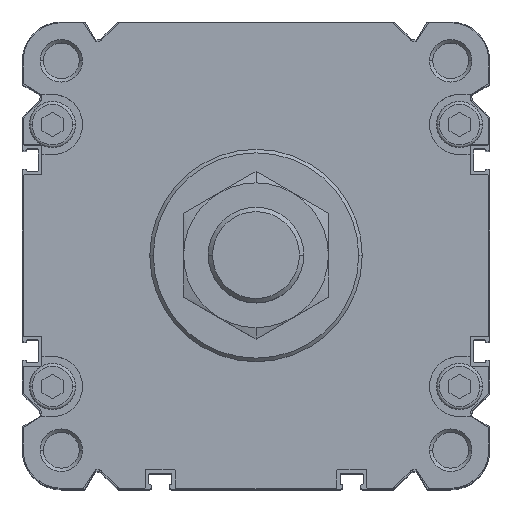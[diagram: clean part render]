
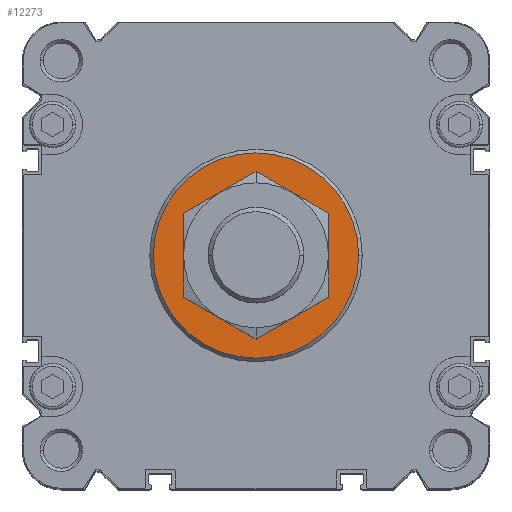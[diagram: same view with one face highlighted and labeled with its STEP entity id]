
A CAD part, top view. The second image highlights one B-rep face of the part: STEP entity #12273.
In plain terms, the highlighted planar face has unit normal (0, 0, 1).
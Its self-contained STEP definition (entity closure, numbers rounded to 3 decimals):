
#155 = DIRECTION ( 'NONE',  ( 1., 0., 0. ) ) ;
#247 = CARTESIAN_POINT ( 'NONE',  ( 16., 0., 4. ) ) ;
#760 = EDGE_CURVE ( 'NONE', #2553, #19385, #2450, .T. ) ;
#1397 = EDGE_LOOP ( 'NONE', ( #16174, #8851 ) ) ;
#2450 = CIRCLE ( 'NONE', #13965, 29. ) ;
#2553 = VERTEX_POINT ( 'NONE', #18446 ) ;
#3111 = CARTESIAN_POINT ( 'NONE',  ( 29., 0., 4. ) ) ;
#4962 = AXIS2_PLACEMENT_3D ( 'NONE', #6538, #20473, #6081 ) ;
#4968 = FACE_OUTER_BOUND ( 'NONE', #1397, .T. ) ;
#6081 = DIRECTION ( 'NONE',  ( 1., 0., 0. ) ) ;
#6281 = VERTEX_POINT ( 'NONE', #247 ) ;
#6526 = EDGE_LOOP ( 'NONE', ( #14878, #15387 ) ) ;
#6538 = CARTESIAN_POINT ( 'NONE',  ( 0., 0., 4. ) ) ;
#6615 = CIRCLE ( 'NONE', #9571, 16. ) ;
#7147 = CIRCLE ( 'NONE', #12322, 29. ) ;
#8440 = DIRECTION ( 'NONE',  ( -1., 0., 0. ) ) ;
#8676 = CARTESIAN_POINT ( 'NONE',  ( 0., -29., 4. ) ) ;
#8851 = ORIENTED_EDGE ( 'NONE', *, *, #760, .F. ) ;
#9571 = AXIS2_PLACEMENT_3D ( 'NONE', #13856, #15237, #18847 ) ;
#10301 = DIRECTION ( 'NONE',  ( 0., 0., 1. ) ) ;
#10644 = PLANE ( 'NONE',  #17134 ) ;
#11206 = CARTESIAN_POINT ( 'NONE',  ( 0., 0., 4. ) ) ;
#11620 = CIRCLE ( 'NONE', #4962, 16. ) ;
#11953 = VERTEX_POINT ( 'NONE', #14372 ) ;
#12273 = ADVANCED_FACE ( 'NONE', ( #4968, #14132 ), #10644, .T. ) ;
#12322 = AXIS2_PLACEMENT_3D ( 'NONE', #11206, #14683, #21772 ) ;
#12359 = EDGE_CURVE ( 'NONE', #19385, #2553, #7147, .T. ) ;
#13856 = CARTESIAN_POINT ( 'NONE',  ( 0., 0., 4. ) ) ;
#13965 = AXIS2_PLACEMENT_3D ( 'NONE', #17917, #17803, #155 ) ;
#14128 = EDGE_CURVE ( 'NONE', #6281, #11953, #11620, .T. ) ;
#14132 = FACE_BOUND ( 'NONE', #6526, .T. ) ;
#14372 = CARTESIAN_POINT ( 'NONE',  ( -16., 0., 4. ) ) ;
#14683 = DIRECTION ( 'NONE',  ( 0., 0., -1. ) ) ;
#14878 = ORIENTED_EDGE ( 'NONE', *, *, #14128, .T. ) ;
#15237 = DIRECTION ( 'NONE',  ( 0., 0., -1. ) ) ;
#15387 = ORIENTED_EDGE ( 'NONE', *, *, #21396, .T. ) ;
#16174 = ORIENTED_EDGE ( 'NONE', *, *, #12359, .F. ) ;
#17134 = AXIS2_PLACEMENT_3D ( 'NONE', #8676, #10301, #8440 ) ;
#17803 = DIRECTION ( 'NONE',  ( 0., 0., -1. ) ) ;
#17917 = CARTESIAN_POINT ( 'NONE',  ( 0., 0., 4. ) ) ;
#18446 = CARTESIAN_POINT ( 'NONE',  ( -29., 0., 4. ) ) ;
#18847 = DIRECTION ( 'NONE',  ( 1., 0., 0. ) ) ;
#19385 = VERTEX_POINT ( 'NONE', #3111 ) ;
#20473 = DIRECTION ( 'NONE',  ( 0., 0., -1. ) ) ;
#21396 = EDGE_CURVE ( 'NONE', #11953, #6281, #6615, .T. ) ;
#21772 = DIRECTION ( 'NONE',  ( 1., 0., 0. ) ) ;
